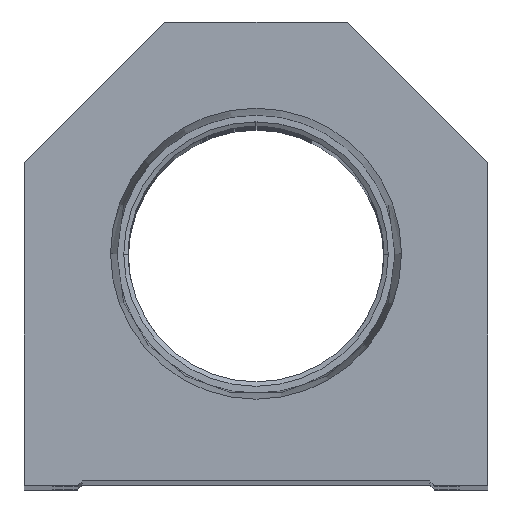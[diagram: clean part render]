
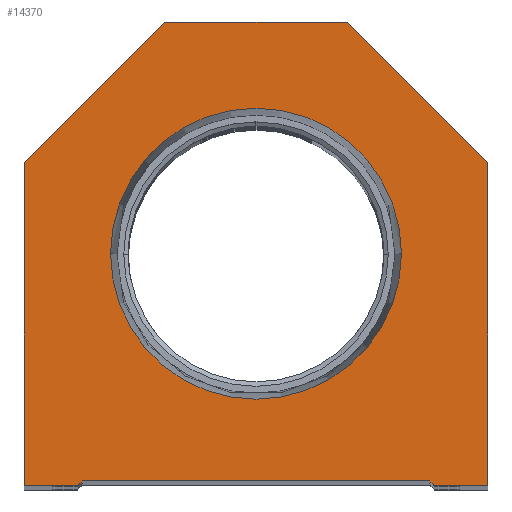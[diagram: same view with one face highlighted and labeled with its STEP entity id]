
A CAD part, top view. The second image highlights one B-rep face of the part: STEP entity #14370.
In plain terms, the highlighted planar face has unit normal (0, 0, 1).
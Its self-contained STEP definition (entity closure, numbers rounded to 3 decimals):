
#156 = CARTESIAN_POINT ( 'NONE',  ( 0., 25.4, 0. ) ) ;
#311 = DIRECTION ( 'NONE',  ( 0., 0., 1. ) ) ;
#849 = DIRECTION ( 'NONE',  ( 1., 0., 0. ) ) ;
#1193 = VECTOR ( 'NONE', #16673, 1000. ) ;
#1943 = EDGE_CURVE ( 'NONE', #14693, #19654, #3800, .T. ) ;
#2425 = LINE ( 'NONE', #17991, #3667 ) ;
#2491 = EDGE_LOOP ( 'NONE', ( #4644, #16414 ) ) ;
#2621 = ORIENTED_EDGE ( 'NONE', *, *, #6505, .T. ) ;
#2747 = LINE ( 'NONE', #9962, #20489 ) ;
#2995 = CARTESIAN_POINT ( 'NONE',  ( -19.05, 0.5, 0. ) ) ;
#3421 = EDGE_CURVE ( 'NONE', #7356, #17384, #19516, .T. ) ;
#3433 = CARTESIAN_POINT ( 'NONE',  ( -25.4, 0., 0. ) ) ;
#3487 = VERTEX_POINT ( 'NONE', #16793 ) ;
#3667 = VECTOR ( 'NONE', #849, 1000. ) ;
#3671 = DIRECTION ( 'NONE',  ( 0.707, -0.707, 0. ) ) ;
#3689 = CARTESIAN_POINT ( 'NONE',  ( 10., 50.8, 0. ) ) ;
#3800 = LINE ( 'NONE', #5505, #17274 ) ;
#4644 = ORIENTED_EDGE ( 'NONE', *, *, #3421, .F. ) ;
#4755 = CIRCLE ( 'NONE', #6914, 15.947 ) ;
#5051 = DIRECTION ( 'NONE',  ( -0.707, -0.707, 0. ) ) ;
#5097 = EDGE_CURVE ( 'NONE', #17384, #7356, #4755, .T. ) ;
#5354 = LINE ( 'NONE', #17757, #8645 ) ;
#5505 = CARTESIAN_POINT ( 'NONE',  ( -25.4, 35.4, 0. ) ) ;
#5776 = ORIENTED_EDGE ( 'NONE', *, *, #20967, .T. ) ;
#6466 = DIRECTION ( 'NONE',  ( 1., 0., 0. ) ) ;
#6505 = EDGE_CURVE ( 'NONE', #19765, #3487, #21989, .T. ) ;
#6655 = CARTESIAN_POINT ( 'NONE',  ( 19.55, 0., 0. ) ) ;
#6871 = EDGE_CURVE ( 'NONE', #3487, #18081, #13360, .T. ) ;
#6914 = AXIS2_PLACEMENT_3D ( 'NONE', #156, #15724, #7068 ) ;
#7068 = DIRECTION ( 'NONE',  ( 1., 0., 0. ) ) ;
#7356 = VERTEX_POINT ( 'NONE', #15644 ) ;
#7513 = LINE ( 'NONE', #10670, #15165 ) ;
#7664 = EDGE_CURVE ( 'NONE', #11494, #10293, #2747, .T. ) ;
#8645 = VECTOR ( 'NONE', #3671, 1000. ) ;
#8867 = CARTESIAN_POINT ( 'NONE',  ( -10., 50.8, 0. ) ) ;
#9410 = VECTOR ( 'NONE', #12700, 1000. ) ;
#9865 = DIRECTION ( 'NONE',  ( 1., 0., 0. ) ) ;
#9962 = CARTESIAN_POINT ( 'NONE',  ( -19.05, 0., 0. ) ) ;
#10237 = DIRECTION ( 'NONE',  ( 0., 0., 1. ) ) ;
#10293 = VERTEX_POINT ( 'NONE', #21445 ) ;
#10570 = VECTOR ( 'NONE', #18897, 1000. ) ;
#10670 = CARTESIAN_POINT ( 'NONE',  ( -9.775, 9.775, 0. ) ) ;
#10771 = EDGE_CURVE ( 'NONE', #13004, #14371, #5354, .T. ) ;
#10951 = ORIENTED_EDGE ( 'NONE', *, *, #6871, .T. ) ;
#11492 = CARTESIAN_POINT ( 'NONE',  ( 25.4, 0., 0. ) ) ;
#11494 = VERTEX_POINT ( 'NONE', #3433 ) ;
#11542 = LINE ( 'NONE', #2995, #22003 ) ;
#11656 = ORIENTED_EDGE ( 'NONE', *, *, #7664, .T. ) ;
#11983 = ORIENTED_EDGE ( 'NONE', *, *, #14909, .T. ) ;
#12289 = EDGE_LOOP ( 'NONE', ( #11656, #15778, #11983, #12405, #15091, #2621, #10951, #5776, #21702, #13281 ) ) ;
#12405 = ORIENTED_EDGE ( 'NONE', *, *, #10771, .T. ) ;
#12700 = DIRECTION ( 'NONE',  ( 0., -1., 0. ) ) ;
#12838 = EDGE_CURVE ( 'NONE', #10293, #14804, #7513, .T. ) ;
#13004 = VERTEX_POINT ( 'NONE', #20344 ) ;
#13281 = ORIENTED_EDGE ( 'NONE', *, *, #17046, .T. ) ;
#13295 = AXIS2_PLACEMENT_3D ( 'NONE', #16889, #10237, #16786 ) ;
#13360 = LINE ( 'NONE', #18998, #10570 ) ;
#13405 = VECTOR ( 'NONE', #13585, 1000. ) ;
#13585 = DIRECTION ( 'NONE',  ( -1., 0., 0. ) ) ;
#14255 = CARTESIAN_POINT ( 'NONE',  ( -25.4, 0., 0. ) ) ;
#14370 = ADVANCED_FACE ( 'NONE', ( #22117, #18607 ), #18833, .T. ) ;
#14371 = VERTEX_POINT ( 'NONE', #6655 ) ;
#14693 = VERTEX_POINT ( 'NONE', #8867 ) ;
#14804 = VERTEX_POINT ( 'NONE', #18657 ) ;
#14909 = EDGE_CURVE ( 'NONE', #14804, #13004, #11542, .T. ) ;
#15091 = ORIENTED_EDGE ( 'NONE', *, *, #21840, .T. ) ;
#15165 = VECTOR ( 'NONE', #20965, 1000. ) ;
#15644 = CARTESIAN_POINT ( 'NONE',  ( 15.947, 25.4, 0. ) ) ;
#15679 = DIRECTION ( 'NONE',  ( 1., 0., 0. ) ) ;
#15724 = DIRECTION ( 'NONE',  ( 0., 0., 1. ) ) ;
#15778 = ORIENTED_EDGE ( 'NONE', *, *, #12838, .T. ) ;
#16068 = LINE ( 'NONE', #14255, #9410 ) ;
#16414 = ORIENTED_EDGE ( 'NONE', *, *, #5097, .F. ) ;
#16673 = DIRECTION ( 'NONE',  ( 0., 1., 0. ) ) ;
#16786 = DIRECTION ( 'NONE',  ( 1., 0., 0. ) ) ;
#16793 = CARTESIAN_POINT ( 'NONE',  ( 25.4, 35.4, 0. ) ) ;
#16889 = CARTESIAN_POINT ( 'NONE',  ( 0., 0., 0. ) ) ;
#17046 = EDGE_CURVE ( 'NONE', #19654, #11494, #16068, .T. ) ;
#17070 = CARTESIAN_POINT ( 'NONE',  ( -15.947, 25.4, 0. ) ) ;
#17274 = VECTOR ( 'NONE', #5051, 1000. ) ;
#17384 = VERTEX_POINT ( 'NONE', #17070 ) ;
#17585 = CARTESIAN_POINT ( 'NONE',  ( 0., 25.4, 0. ) ) ;
#17757 = CARTESIAN_POINT ( 'NONE',  ( 9.775, 9.775, 0. ) ) ;
#17991 = CARTESIAN_POINT ( 'NONE',  ( 19.05, 0., 0. ) ) ;
#18081 = VERTEX_POINT ( 'NONE', #21510 ) ;
#18440 = AXIS2_PLACEMENT_3D ( 'NONE', #17585, #311, #15679 ) ;
#18607 = FACE_OUTER_BOUND ( 'NONE', #12289, .T. ) ;
#18657 = CARTESIAN_POINT ( 'NONE',  ( -19.05, 0.5, 0. ) ) ;
#18833 = PLANE ( 'NONE',  #13295 ) ;
#18897 = DIRECTION ( 'NONE',  ( -0.707, 0.707, 0. ) ) ;
#18998 = CARTESIAN_POINT ( 'NONE',  ( 25.4, 35.4, 0. ) ) ;
#19141 = LINE ( 'NONE', #3689, #13405 ) ;
#19516 = CIRCLE ( 'NONE', #18440, 15.947 ) ;
#19534 = CARTESIAN_POINT ( 'NONE',  ( -25.4, 35.4, 0. ) ) ;
#19654 = VERTEX_POINT ( 'NONE', #19534 ) ;
#19765 = VERTEX_POINT ( 'NONE', #11492 ) ;
#20344 = CARTESIAN_POINT ( 'NONE',  ( 19.05, 0.5, 0. ) ) ;
#20489 = VECTOR ( 'NONE', #6466, 1000. ) ;
#20965 = DIRECTION ( 'NONE',  ( 0.707, 0.707, 0. ) ) ;
#20967 = EDGE_CURVE ( 'NONE', #18081, #14693, #19141, .T. ) ;
#21445 = CARTESIAN_POINT ( 'NONE',  ( -19.55, 0., 0. ) ) ;
#21510 = CARTESIAN_POINT ( 'NONE',  ( 10., 50.8, 0. ) ) ;
#21702 = ORIENTED_EDGE ( 'NONE', *, *, #1943, .T. ) ;
#21840 = EDGE_CURVE ( 'NONE', #14371, #19765, #2425, .T. ) ;
#21880 = CARTESIAN_POINT ( 'NONE',  ( 25.4, 0., 0. ) ) ;
#21989 = LINE ( 'NONE', #21880, #1193 ) ;
#22003 = VECTOR ( 'NONE', #9865, 1000. ) ;
#22117 = FACE_BOUND ( 'NONE', #2491, .T. ) ;
